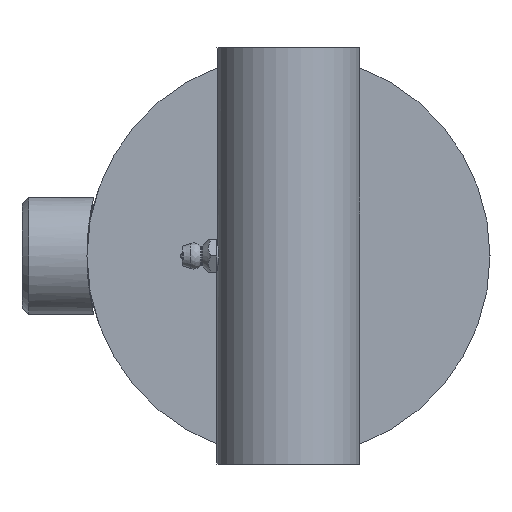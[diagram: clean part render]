
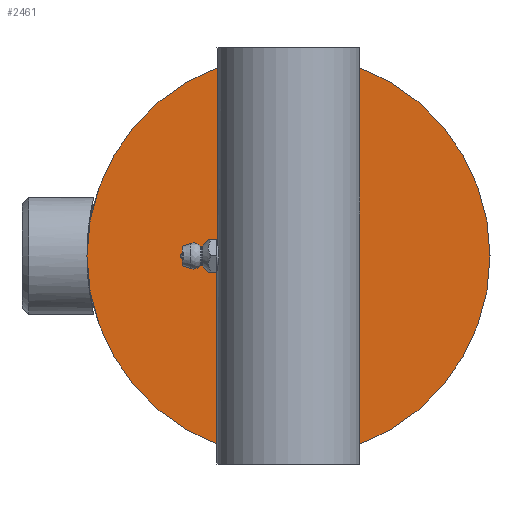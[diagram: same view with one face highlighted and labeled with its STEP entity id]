
A CAD part, left-side view. The second image highlights one B-rep face of the part: STEP entity #2461.
In plain terms, the highlighted planar face has unit normal (-1, 0, 0) as drawn and (0, 0, 1) by its records, which use the part's own axes.
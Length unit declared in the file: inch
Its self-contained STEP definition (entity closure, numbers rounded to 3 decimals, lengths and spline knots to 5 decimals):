
#351=PLANE($,#2709);
#673=FACE_OUTER_BOUND($,#872,.T.);
#872=EDGE_LOOP($,(#1893));
#1189=CIRCLE($,#2708,1.9375);
#1356=VERTEX_POINT($,#4108);
#1586=EDGE_CURVE($,#1356,#1356,#1189,.T.);
#1893=ORIENTED_EDGE($,*,*,#1586,.F.);
#2461=ADVANCED_FACE($,(#673),#351,.F.);
#2708=AXIS2_PLACEMENT_3D($,#4109,#3141,#3142);
#2709=AXIS2_PLACEMENT_3D($,#4110,#3143,#3144);
#3141=DIRECTION('center_axis',(0.,0.,-1.));
#3142=DIRECTION('ref_axis',(-1.,0.,0.));
#3143=DIRECTION('center_axis',(0.,0.,-1.));
#3144=DIRECTION('ref_axis',(-1.,0.,0.));
#4108=CARTESIAN_POINT('',(1.9375,0.,0.5));
#4109=CARTESIAN_POINT('Origin',(0.,0.,0.5));
#4110=CARTESIAN_POINT('Origin',(0.,0.,0.5));
